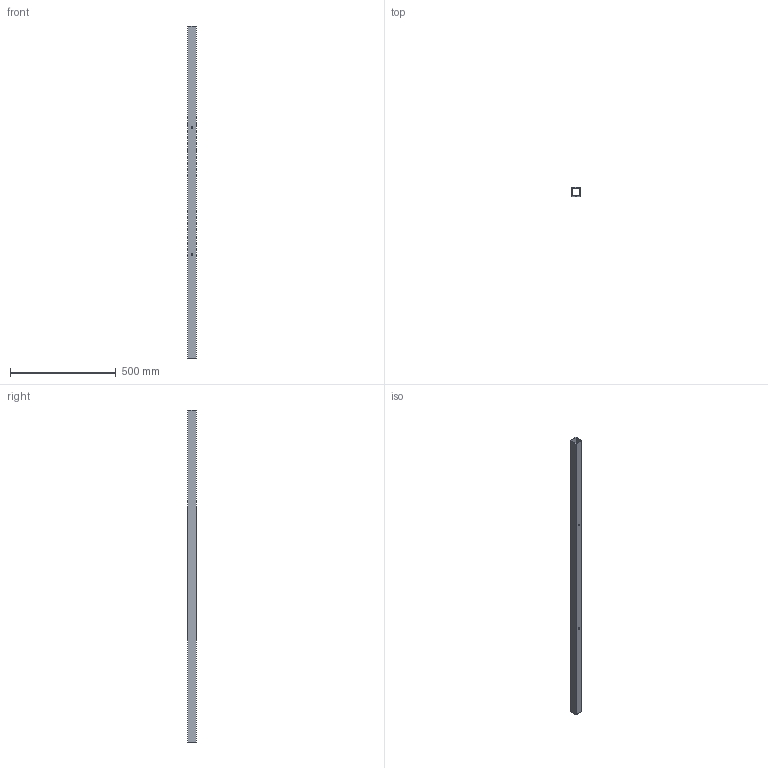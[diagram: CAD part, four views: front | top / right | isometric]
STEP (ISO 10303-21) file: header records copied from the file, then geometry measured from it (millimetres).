
FILE_DESCRIPTION(('golf model'),'2;1');
FILE_NAME('golf','',(''),(''),'golf_step_io','golf','');
FILE_SCHEMA(('AUTOMOTIVE_DESIGN { 1 0 10303 214 1 1 1 1 }'));
Length unit declared in the file: millimetre
Products named in the file (2): ASSEMBLY; cabinet_stand.upright_0
Assembly tree (1 placements, depth 2):
  ASSEMBLY
    cabinet_stand.upright_0
Bounding box: 40 x 40 x 1570 mm (x, y, z)
Volume: 696316.6 mm3; surface area: 465438.4 mm2
Topology: 1 solids, 1 shells, 14 faces, 36 edges, 24 vertices
Faces by surface type: plane 10, cylinder 4
Full cylindrical faces by diameter (mm): 9 x4
Entity records: 462 total; most frequent: CARTESIAN_POINT 72, DIRECTION 72, ORIENTED_EDGE 64, EDGE_CURVE 32, EDGE_LOOP 28, AXIS2_PLACEMENT_3D 24, VERTEX_POINT 24, VECTOR 24
